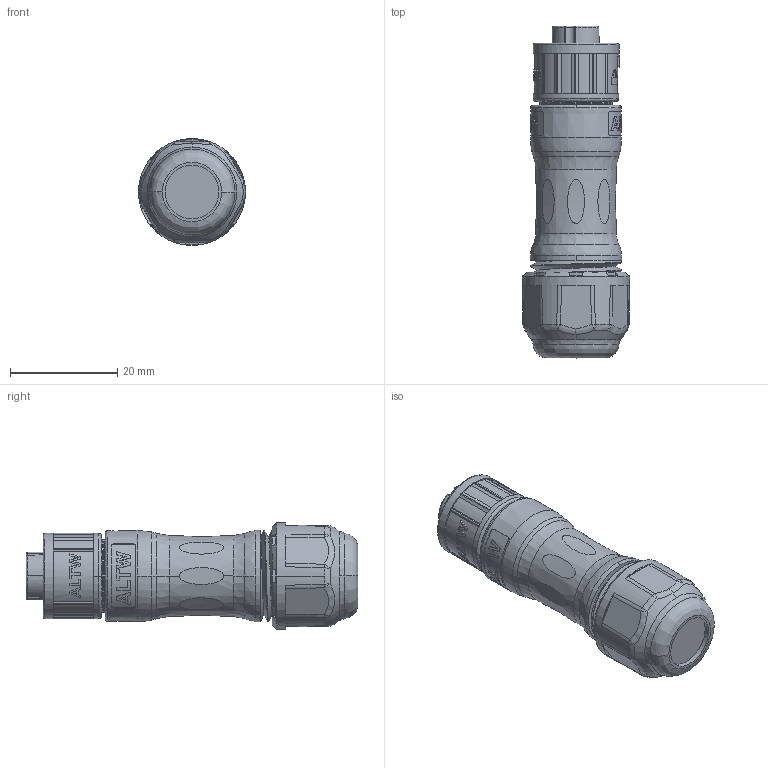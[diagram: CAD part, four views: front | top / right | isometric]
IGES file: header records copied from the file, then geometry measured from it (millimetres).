
Start section:  PTC IGES file: au-08bffa-ql8ap0_sw0001.igs
Global section: file name: au-08bffa-ql8ap0_sw0001.igs; native system: Creo Parametric by Parametric Technology Corporation; preprocessor: 2013050; author: K170047; organization: Unknown; date: 20220620.102313; units: millimetre
Bounding box: 19.99 x 61.95 x 19.99 mm (x, y, z)
Volume: 11972 mm3; surface area: 6133.2 mm2
Topology: 1 solids, 1 shells, 1044 faces, 2795 edges, 1820 vertices
Faces by surface type: bspline 739, revolution 293, extrusion 12
